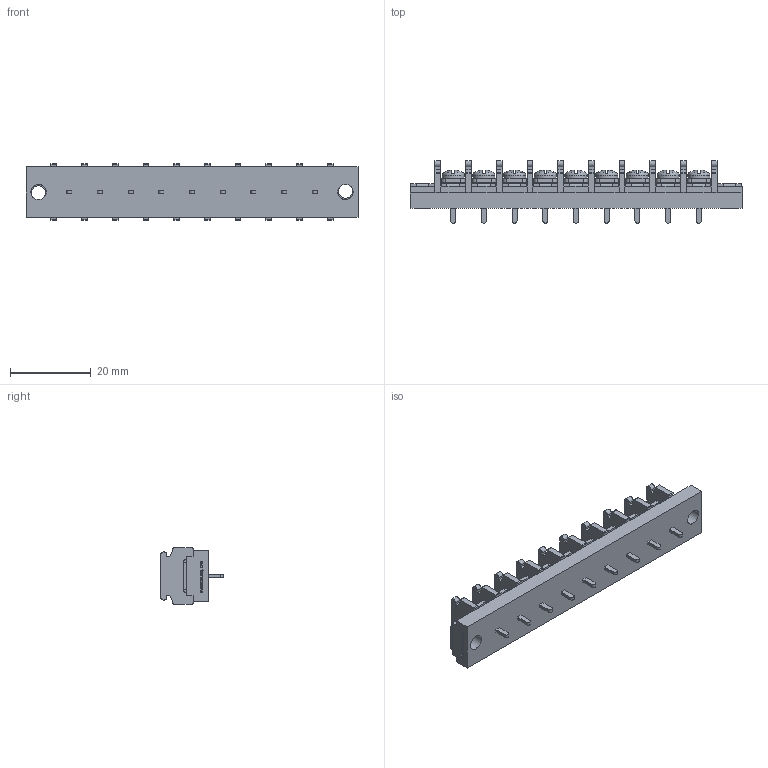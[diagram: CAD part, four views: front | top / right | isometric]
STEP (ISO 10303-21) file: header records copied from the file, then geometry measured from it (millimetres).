
FILE_DESCRIPTION(/* description */ ('Alibre Inc.'),/* implementation_level */ '2;1');
FILE_NAME(/* name */ 'export0',/* time_stamp */ '2015-10-23T19:20:42+09:00',/* author */ (''),/* organization */ (''),/* preprocessor_version */ 'ST-DEVELOPER v14',/* originating_system */ 'Alibre',/* authorisation */ '');
FILE_SCHEMA (('CONFIG_CONTROL_DESIGN'));
Length unit declared in the file: centimetre
Products named in the file (1): ID_1
Bounding box: 82.4 x 15.5 x 14 mm (x, y, z)
Volume: 7360.5 mm3; surface area: 6959.4 mm2
Topology: 1 solids, 1 shells, 1448 faces, 3970 edges, 2602 vertices
Faces by surface type: plane 1123, cylinder 149, bspline 104, cone 36, torus 18, sphere 18
Full cylindrical faces by diameter (mm): 3 x9, 3.5 x2, 3.8 x2, 5.5 x9
Entity records: 43517 total; most frequent: CARTESIAN_POINT 9221, ORIENTED_EDGE 7816, DIRECTION 5510, EDGE_CURVE 3908, VECTOR 2858, LINE 2858, VERTEX_POINT 2580, AXIS2_PLACEMENT_3D 1851
